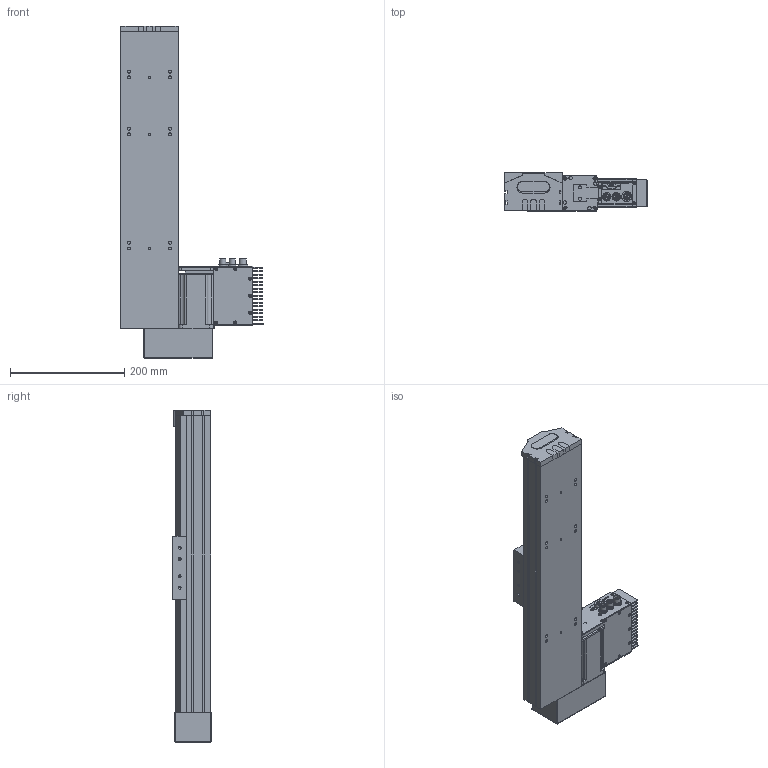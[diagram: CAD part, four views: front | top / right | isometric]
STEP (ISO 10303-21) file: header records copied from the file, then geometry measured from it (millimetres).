
FILE_DESCRIPTION (( 'STEP AP203' ), '1' );
FILE_NAME ('S 10 TSH BR S300.STEP', '2012-09-04T13:19:56', ( 'Conseil Régional Haute-Normandie' ), ( 'Conseil Régional Haute-Normandie' ), 'SwSTEP 2.0', 'SolidWorks 2010', '' );
FILE_SCHEMA (( 'CONFIG_CONTROL_DESIGN' ));
Length unit declared in the file: millimetre
Products named in the file (25): embout_modifié; remplir_Default; BU41 Carte Alimentation P05_3; Colonnette_3; Connecteur rond D12 4cts_5; BU45 Carte d''axe A11_5; Sub D 9cts 90_X2_00B_X0__3; Radiateur profil_X2_00E9_X0_ 100x25_3; renvoie LH2_Default; Vis TF 3 torkx; S 10 TSH BR S300; axe520_Default; piece_plastique remplieTSH_Default; Pièce2_Default; palette tbn2; Assem1_7; T_X2_00F4_X0_le contre le moteur_5; Moteur 60BLDC90A_3; Couvercle_3; T_X2_00F4_X0_le fond_3; Connecteur rond D10 3cts_5; Colonnette ronde_3; T_X2_00F4_X0_le Arri_X2_00E8_X0_re_5; T_X2_00F4_X0_le lat_X2_00E9_X0_rale_5; Vis TF 3 torkx_1_1
Assembly tree (55 placements, depth 3):
  S 10 TSH BR S300
    Vis TF 3 torkx  x7
    piece_plastique remplieTSH_Default
      embout_modifié
      Pièce2_Default
      remplir_Default  x3
    axe520_Default
    palette tbn2
    Assem1_7
      Couvercle_3
      Connecteur rond D10 3cts_5  x2
      Vis TF 3 torkx_1_1  x21
      BU41 Carte Alimentation P05_3
      Colonnette_3  x2
      Sub D 9cts 90_X2_00B_X0__3
      Colonnette ronde_3
      T_X2_00F4_X0_le lat_X2_00E9_X0_rale_5  x2
      BU45 Carte d''axe A11_5
      Connecteur rond D12 4cts_5
      Radiateur profil_X2_00E9_X0_ 100x25_3
      T_X2_00F4_X0_le Arri_X2_00E8_X0_re_5
      T_X2_00F4_X0_le fond_3
      Moteur 60BLDC90A_3
      T_X2_00F4_X0_le contre le moteur_5
    renvoie LH2_Default
Bounding box: 249.04 x 67.45 x 582 mm (x, y, z)
Volume: 3439336.5 mm3; surface area: 568623.2 mm2
Topology: 53 solids, 53 shells, 1961 faces, 4996 edges, 3250 vertices
Faces by surface type: plane 921, cylinder 869, cone 164, sphere 4, torus 3
Entity records: 38429 total; most frequent: CARTESIAN_POINT 6439, DIRECTION 6257, ORIENTED_EDGE 5684, EDGE_CURVE 2842, AXIS2_PLACEMENT_3D 2293, VERTEX_POINT 1862, VECTOR 1671, LINE 1671
